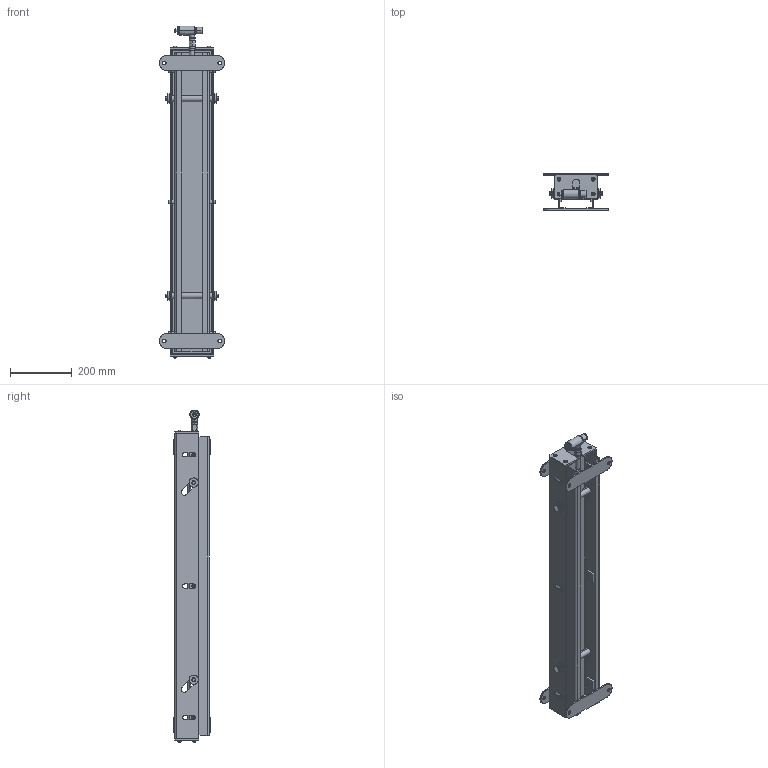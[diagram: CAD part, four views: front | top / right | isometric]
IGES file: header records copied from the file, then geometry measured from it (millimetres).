
Start section: 3D InterOp IGES (Version 21 0 2), Spatial Corp. Copyright (c) 1999-2007.
Global section: file name: ALB-TBL-1000N_H.igs; native system: Spatial Corp.; preprocessor: 3D InterOp GENERIC/IGES 3.0; author: Noname; organization: Noname; date: 20130325.141430; units: millimetre
Bounding box: 210 x 120 x 1074.8 mm (x, y, z)
Surface area: 1306783.5 mm2 (no closed solid volume)
Topology: 0 solids, 0 shells, 908 faces, 5528 edges, 5496 vertices
Faces by surface type: bspline 908
